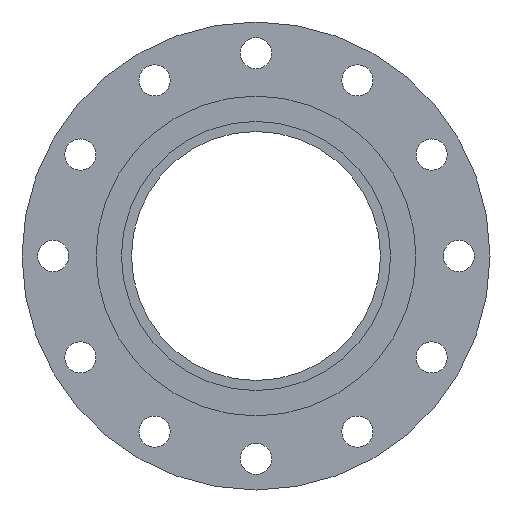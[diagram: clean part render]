
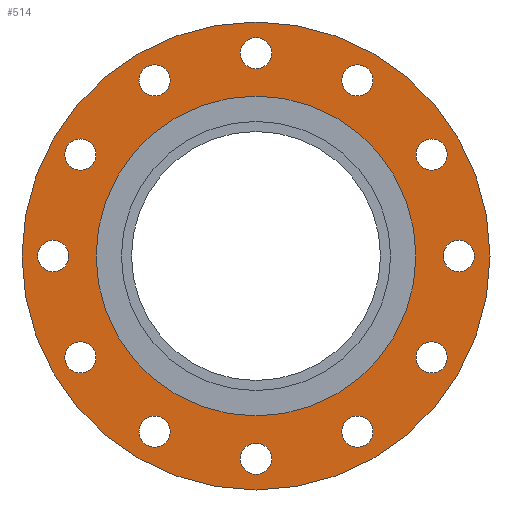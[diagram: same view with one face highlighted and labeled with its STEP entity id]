
A CAD part, left-side view. The second image highlights one B-rep face of the part: STEP entity #514.
In plain terms, the highlighted planar face has unit normal (-1, 0, 0).
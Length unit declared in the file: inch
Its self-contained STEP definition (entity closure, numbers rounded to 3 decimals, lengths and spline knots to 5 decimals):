
#14=FACE_BOUND('',#88,.T.);
#15=FACE_BOUND('',#89,.T.);
#16=FACE_BOUND('',#90,.T.);
#17=FACE_BOUND('',#91,.T.);
#18=FACE_BOUND('',#92,.T.);
#19=FACE_BOUND('',#93,.T.);
#20=FACE_BOUND('',#94,.T.);
#21=FACE_BOUND('',#95,.T.);
#22=FACE_BOUND('',#96,.T.);
#23=FACE_BOUND('',#97,.T.);
#24=FACE_BOUND('',#98,.T.);
#25=FACE_BOUND('',#99,.T.);
#26=FACE_BOUND('',#100,.T.);
#44=PLANE('',#586);
#63=FACE_OUTER_BOUND('',#87,.T.);
#87=EDGE_LOOP('',(#380,#381));
#88=EDGE_LOOP('',(#382));
#89=EDGE_LOOP('',(#383));
#90=EDGE_LOOP('',(#384));
#91=EDGE_LOOP('',(#385));
#92=EDGE_LOOP('',(#386));
#93=EDGE_LOOP('',(#387));
#94=EDGE_LOOP('',(#388));
#95=EDGE_LOOP('',(#389));
#96=EDGE_LOOP('',(#390));
#97=EDGE_LOOP('',(#391));
#98=EDGE_LOOP('',(#392));
#99=EDGE_LOOP('',(#393));
#100=EDGE_LOOP('',(#394,#395));
#165=CIRCLE('',#547,0.5);
#167=CIRCLE('',#550,0.5);
#169=CIRCLE('',#553,0.5);
#171=CIRCLE('',#556,0.5);
#173=CIRCLE('',#559,0.5);
#175=CIRCLE('',#562,0.5);
#177=CIRCLE('',#565,0.5);
#179=CIRCLE('',#568,0.5);
#181=CIRCLE('',#571,0.5);
#183=CIRCLE('',#574,0.5);
#185=CIRCLE('',#577,0.5);
#187=CIRCLE('',#580,0.5);
#188=CIRCLE('',#582,7.5);
#189=CIRCLE('',#583,7.5);
#192=CIRCLE('',#587,5.125);
#193=CIRCLE('',#588,5.125);
#213=VERTEX_POINT('',#785);
#215=VERTEX_POINT('',#791);
#217=VERTEX_POINT('',#797);
#219=VERTEX_POINT('',#803);
#221=VERTEX_POINT('',#809);
#223=VERTEX_POINT('',#815);
#225=VERTEX_POINT('',#821);
#227=VERTEX_POINT('',#827);
#229=VERTEX_POINT('',#833);
#231=VERTEX_POINT('',#839);
#233=VERTEX_POINT('',#845);
#235=VERTEX_POINT('',#851);
#236=VERTEX_POINT('',#855);
#237=VERTEX_POINT('',#856);
#240=VERTEX_POINT('',#865);
#241=VERTEX_POINT('',#866);
#262=EDGE_CURVE('',#213,#213,#165,.T.);
#265=EDGE_CURVE('',#215,#215,#167,.T.);
#268=EDGE_CURVE('',#217,#217,#169,.T.);
#271=EDGE_CURVE('',#219,#219,#171,.T.);
#274=EDGE_CURVE('',#221,#221,#173,.T.);
#277=EDGE_CURVE('',#223,#223,#175,.T.);
#280=EDGE_CURVE('',#225,#225,#177,.T.);
#283=EDGE_CURVE('',#227,#227,#179,.T.);
#286=EDGE_CURVE('',#229,#229,#181,.T.);
#289=EDGE_CURVE('',#231,#231,#183,.T.);
#292=EDGE_CURVE('',#233,#233,#185,.T.);
#295=EDGE_CURVE('',#235,#235,#187,.T.);
#296=EDGE_CURVE('',#236,#237,#188,.T.);
#297=EDGE_CURVE('',#237,#236,#189,.T.);
#301=EDGE_CURVE('',#240,#241,#192,.T.);
#302=EDGE_CURVE('',#241,#240,#193,.T.);
#380=ORIENTED_EDGE('',*,*,#296,.T.);
#381=ORIENTED_EDGE('',*,*,#297,.T.);
#382=ORIENTED_EDGE('',*,*,#262,.T.);
#383=ORIENTED_EDGE('',*,*,#265,.T.);
#384=ORIENTED_EDGE('',*,*,#268,.T.);
#385=ORIENTED_EDGE('',*,*,#271,.T.);
#386=ORIENTED_EDGE('',*,*,#274,.T.);
#387=ORIENTED_EDGE('',*,*,#277,.T.);
#388=ORIENTED_EDGE('',*,*,#280,.T.);
#389=ORIENTED_EDGE('',*,*,#283,.T.);
#390=ORIENTED_EDGE('',*,*,#286,.T.);
#391=ORIENTED_EDGE('',*,*,#289,.T.);
#392=ORIENTED_EDGE('',*,*,#292,.T.);
#393=ORIENTED_EDGE('',*,*,#295,.T.);
#394=ORIENTED_EDGE('',*,*,#301,.F.);
#395=ORIENTED_EDGE('',*,*,#302,.F.);
#514=ADVANCED_FACE('',(#63,#14,#15,#16,#17,#18,#19,#20,#21,#22,#23,#24,
#25,#26),#44,.T.);
#547=AXIS2_PLACEMENT_3D('',#787,#624,#625);
#550=AXIS2_PLACEMENT_3D('',#793,#631,#632);
#553=AXIS2_PLACEMENT_3D('',#799,#638,#639);
#556=AXIS2_PLACEMENT_3D('',#805,#645,#646);
#559=AXIS2_PLACEMENT_3D('',#811,#652,#653);
#562=AXIS2_PLACEMENT_3D('',#817,#659,#660);
#565=AXIS2_PLACEMENT_3D('',#823,#666,#667);
#568=AXIS2_PLACEMENT_3D('',#829,#673,#674);
#571=AXIS2_PLACEMENT_3D('',#835,#680,#681);
#574=AXIS2_PLACEMENT_3D('',#841,#687,#688);
#577=AXIS2_PLACEMENT_3D('',#847,#694,#695);
#580=AXIS2_PLACEMENT_3D('',#853,#701,#702);
#582=AXIS2_PLACEMENT_3D('',#857,#705,#706);
#583=AXIS2_PLACEMENT_3D('',#858,#707,#708);
#586=AXIS2_PLACEMENT_3D('',#864,#714,#715);
#587=AXIS2_PLACEMENT_3D('',#867,#716,#717);
#588=AXIS2_PLACEMENT_3D('',#868,#718,#719);
#624=DIRECTION('center_axis',(1.,0.,0.));
#625=DIRECTION('ref_axis',(0.,-0.5,0.866));
#631=DIRECTION('center_axis',(1.,0.,0.));
#632=DIRECTION('ref_axis',(0.,-0.866,0.5));
#638=DIRECTION('center_axis',(1.,0.,0.));
#639=DIRECTION('ref_axis',(0.,-1.,0.));
#645=DIRECTION('center_axis',(1.,0.,0.));
#646=DIRECTION('ref_axis',(0.,-0.866,-0.5));
#652=DIRECTION('center_axis',(1.,0.,0.));
#653=DIRECTION('ref_axis',(0.,-0.5,-0.866));
#659=DIRECTION('center_axis',(1.,0.,0.));
#660=DIRECTION('ref_axis',(0.,0.,-1.));
#666=DIRECTION('center_axis',(1.,0.,0.));
#667=DIRECTION('ref_axis',(0.,0.5,-0.866));
#673=DIRECTION('center_axis',(1.,0.,0.));
#674=DIRECTION('ref_axis',(0.,0.866,-0.5));
#680=DIRECTION('center_axis',(1.,0.,0.));
#681=DIRECTION('ref_axis',(0.,1.,0.));
#687=DIRECTION('center_axis',(1.,0.,0.));
#688=DIRECTION('ref_axis',(0.,0.866,0.5));
#694=DIRECTION('center_axis',(1.,0.,0.));
#695=DIRECTION('ref_axis',(0.,0.5,0.866));
#701=DIRECTION('center_axis',(1.,0.,0.));
#702=DIRECTION('ref_axis',(0.,0.,1.));
#705=DIRECTION('center_axis',(-1.,0.,0.));
#706=DIRECTION('ref_axis',(0.,0.,1.));
#707=DIRECTION('center_axis',(-1.,0.,0.));
#708=DIRECTION('ref_axis',(0.,0.,1.));
#714=DIRECTION('center_axis',(-1.,0.,0.));
#715=DIRECTION('ref_axis',(0.,0.,1.));
#716=DIRECTION('center_axis',(-1.,0.,0.));
#717=DIRECTION('ref_axis',(0.,0.,1.));
#718=DIRECTION('center_axis',(-1.,0.,0.));
#719=DIRECTION('ref_axis',(0.,0.,1.));
#785=CARTESIAN_POINT('',(-1.62,3.5,-6.06218));
#787=CARTESIAN_POINT('Origin',(-1.62,3.25,-5.62917));
#791=CARTESIAN_POINT('',(-1.62,6.06218,-3.5));
#793=CARTESIAN_POINT('Origin',(-1.62,5.62917,-3.25));
#797=CARTESIAN_POINT('',(-1.62,7.,0.));
#799=CARTESIAN_POINT('Origin',(-1.62,6.5,0.));
#803=CARTESIAN_POINT('',(-1.62,6.06218,3.5));
#805=CARTESIAN_POINT('Origin',(-1.62,5.62917,3.25));
#809=CARTESIAN_POINT('',(-1.62,3.5,6.06218));
#811=CARTESIAN_POINT('Origin',(-1.62,3.25,5.62917));
#815=CARTESIAN_POINT('',(-1.62,0.,7.));
#817=CARTESIAN_POINT('Origin',(-1.62,0.,6.5));
#821=CARTESIAN_POINT('',(-1.62,-3.5,6.06218));
#823=CARTESIAN_POINT('Origin',(-1.62,-3.25,5.62917));
#827=CARTESIAN_POINT('',(-1.62,-6.06218,3.5));
#829=CARTESIAN_POINT('Origin',(-1.62,-5.62917,3.25));
#833=CARTESIAN_POINT('',(-1.62,-7.,0.));
#835=CARTESIAN_POINT('Origin',(-1.62,-6.5,0.));
#839=CARTESIAN_POINT('',(-1.62,-6.06218,-3.5));
#841=CARTESIAN_POINT('Origin',(-1.62,-5.62917,-3.25));
#845=CARTESIAN_POINT('',(-1.62,-3.5,-6.06218));
#847=CARTESIAN_POINT('Origin',(-1.62,-3.25,-5.62917));
#851=CARTESIAN_POINT('',(-1.62,0.,-7.));
#853=CARTESIAN_POINT('Origin',(-1.62,0.,-6.5));
#855=CARTESIAN_POINT('',(-1.62,0.,7.5));
#856=CARTESIAN_POINT('',(-1.62,0.,-7.5));
#857=CARTESIAN_POINT('Origin',(-1.62,0.,0.));
#858=CARTESIAN_POINT('Origin',(-1.62,0.,0.));
#864=CARTESIAN_POINT('Origin',(-1.62,0.,6.3125));
#865=CARTESIAN_POINT('',(-1.62,0.,5.125));
#866=CARTESIAN_POINT('',(-1.62,0.,-5.125));
#867=CARTESIAN_POINT('Origin',(-1.62,0.,0.));
#868=CARTESIAN_POINT('Origin',(-1.62,0.,0.));
